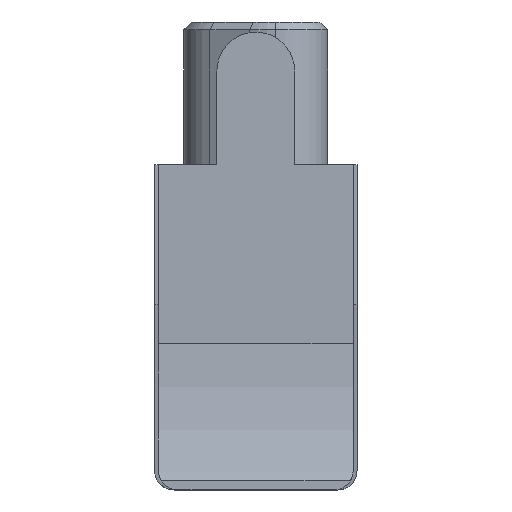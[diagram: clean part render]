
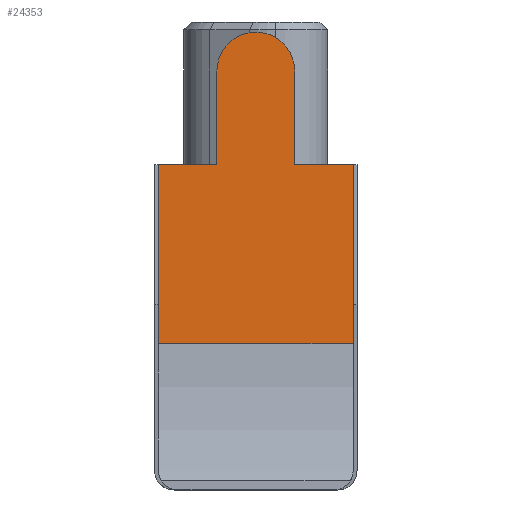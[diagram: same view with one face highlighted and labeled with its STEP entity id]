
A CAD part, left-side view. The second image highlights one B-rep face of the part: STEP entity #24353.
In plain terms, the highlighted planar face has unit normal (-1, 0, 0).
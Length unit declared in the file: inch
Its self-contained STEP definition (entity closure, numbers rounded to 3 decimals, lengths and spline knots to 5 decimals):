
#232 = ORIENTED_EDGE ( 'NONE', *, *, #19455, .F. ) ;
#245 = ORIENTED_EDGE ( 'NONE', *, *, #19472, .F. ) ;
#270 = ORIENTED_EDGE ( 'NONE', *, *, #19468, .T. ) ;
#293 = ORIENTED_EDGE ( 'NONE', *, *, #19469, .T. ) ;
#296 = ORIENTED_EDGE ( 'NONE', *, *, #19467, .T. ) ;
#302 = ORIENTED_EDGE ( 'NONE', *, *, #29157, .T. ) ;
#310 = ORIENTED_EDGE ( 'NONE', *, *, #19470, .T. ) ;
#322 = ORIENTED_EDGE ( 'NONE', *, *, #19471, .F. ) ;
#1188 = CARTESIAN_POINT ( 'NONE',  ( -0.5875, 0.05, 0.162 ) ) ;
#4649 = CARTESIAN_POINT ( 'NONE',  ( -0.5875, -0.125, 0.042 ) ) ;
#7451 = PLANE ( 'NONE',  #12099 ) ;
#7454 = CARTESIAN_POINT ( 'NONE',  ( -0.5875, -0.125, 0.042 ) ) ;
#7460 = DIRECTION ( 'NONE',  ( 1., 0., 0. ) ) ;
#7462 = DIRECTION ( 'NONE',  ( 0., 1., 0. ) ) ;
#7988 = EDGE_LOOP ( 'NONE', ( #232, #302, #296, #293, #310, #322, #245, #270 ) ) ;
#9177 = CIRCLE ( 'NONE', #22346, 0.05 ) ;
#9629 = CARTESIAN_POINT ( 'NONE',  ( -0.5875, -0.05, 0.162 ) ) ;
#11481 = CARTESIAN_POINT ( 'NONE',  ( -0.5875, 0., 0.162 ) ) ;
#11482 = DIRECTION ( 'NONE',  ( -1., 0., 0. ) ) ;
#11484 = DIRECTION ( 'NONE',  ( 0., -1., 0. ) ) ;
#12099 = AXIS2_PLACEMENT_3D ( 'NONE', #7454, #7460, #7462 ) ;
#16693 = VERTEX_POINT ( 'NONE', #1188 ) ;
#18039 = FACE_OUTER_BOUND ( 'NONE', #7988, .T. ) ;
#19455 = EDGE_CURVE ( 'NONE', #28285, #23706, #30562, .T. ) ;
#19467 = EDGE_CURVE ( 'NONE', #16693, #23617, #30525, .T. ) ;
#19468 = EDGE_CURVE ( 'NONE', #22619, #23706, #30523, .T. ) ;
#19469 = EDGE_CURVE ( 'NONE', #23617, #23413, #30521, .T. ) ;
#19470 = EDGE_CURVE ( 'NONE', #23413, #23612, #30517, .T. ) ;
#19471 = EDGE_CURVE ( 'NONE', #23545, #23612, #30514, .T. ) ;
#19472 = EDGE_CURVE ( 'NONE', #22619, #23545, #30510, .T. ) ;
#22346 = AXIS2_PLACEMENT_3D ( 'NONE', #11481, #11482, #11484 ) ;
#22619 = VERTEX_POINT ( 'NONE', #4649 ) ;
#23413 = VERTEX_POINT ( 'NONE', #27218 ) ;
#23545 = VERTEX_POINT ( 'NONE', #27467 ) ;
#23612 = VERTEX_POINT ( 'NONE', #24610 ) ;
#23617 = VERTEX_POINT ( 'NONE', #24618 ) ;
#23706 = VERTEX_POINT ( 'NONE', #24761 ) ;
#24353 = ADVANCED_FACE ( 'NONE', ( #18039 ), #7451, .F. ) ;
#24610 = CARTESIAN_POINT ( 'NONE',  ( -0.5875, 0.125, -0.188 ) ) ;
#24618 = CARTESIAN_POINT ( 'NONE',  ( -0.5875, 0.05, 0.042 ) ) ;
#24761 = CARTESIAN_POINT ( 'NONE',  ( -0.5875, -0.05, 0.042 ) ) ;
#26030 = DIRECTION ( 'NONE',  ( 0., 0., -1. ) ) ;
#26032 = CARTESIAN_POINT ( 'NONE',  ( -0.5875, -0.05, 0.042 ) ) ;
#26063 = CARTESIAN_POINT ( 'NONE',  ( -0.5875, -0.125, 0.042 ) ) ;
#26065 = CARTESIAN_POINT ( 'NONE',  ( -0.5875, 0.05, 0.042 ) ) ;
#26067 = DIRECTION ( 'NONE',  ( 0., 0., -1. ) ) ;
#26068 = DIRECTION ( 'NONE',  ( 0., 1., 0. ) ) ;
#26069 = CARTESIAN_POINT ( 'NONE',  ( -0.5875, -0.125, 0.042 ) ) ;
#26070 = DIRECTION ( 'NONE',  ( 0., 1., 0. ) ) ;
#26071 = CARTESIAN_POINT ( 'NONE',  ( -0.5875, 0.125, 0.042 ) ) ;
#26072 = DIRECTION ( 'NONE',  ( 0., 0., -1. ) ) ;
#26073 = CARTESIAN_POINT ( 'NONE',  ( -0.5875, -0.125, -0.188 ) ) ;
#26074 = DIRECTION ( 'NONE',  ( 0., 1., 0. ) ) ;
#26075 = CARTESIAN_POINT ( 'NONE',  ( -0.5875, -0.125, 0.042 ) ) ;
#26077 = DIRECTION ( 'NONE',  ( 0., 0., -1. ) ) ;
#27218 = CARTESIAN_POINT ( 'NONE',  ( -0.5875, 0.125, 0.042 ) ) ;
#27467 = CARTESIAN_POINT ( 'NONE',  ( -0.5875, -0.125, -0.188 ) ) ;
#28285 = VERTEX_POINT ( 'NONE', #9629 ) ;
#29157 = EDGE_CURVE ( 'NONE', #28285, #16693, #9177, .T. ) ;
#30504 = VECTOR ( 'NONE', #26077, 39.37008 ) ;
#30508 = VECTOR ( 'NONE', #26074, 39.37008 ) ;
#30510 = LINE ( 'NONE', #26075, #30504 ) ;
#30512 = VECTOR ( 'NONE', #26072, 39.37008 ) ;
#30514 = LINE ( 'NONE', #26073, #30508 ) ;
#30516 = VECTOR ( 'NONE', #26070, 39.37008 ) ;
#30517 = LINE ( 'NONE', #26071, #30512 ) ;
#30519 = VECTOR ( 'NONE', #26068, 39.37008 ) ;
#30521 = LINE ( 'NONE', #26069, #30516 ) ;
#30523 = LINE ( 'NONE', #26063, #30519 ) ;
#30525 = LINE ( 'NONE', #26065, #30527 ) ;
#30527 = VECTOR ( 'NONE', #26067, 39.37008 ) ;
#30555 = VECTOR ( 'NONE', #26030, 39.37008 ) ;
#30562 = LINE ( 'NONE', #26032, #30555 ) ;
